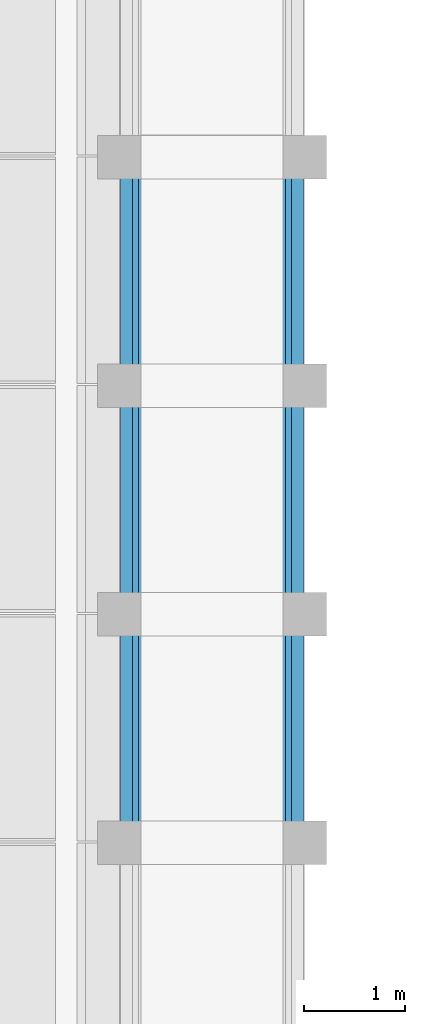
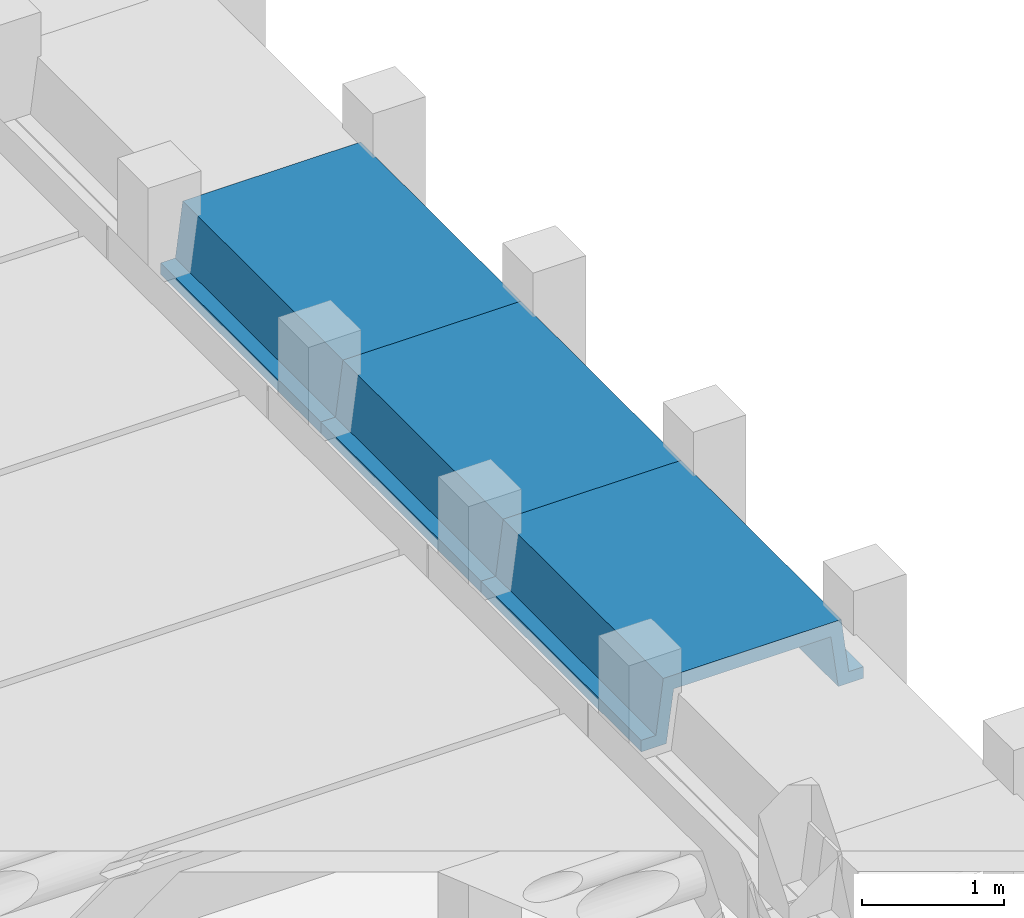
# One storey, part 6 of 21: 3 beams.
"""IFC2X3 building model written with IfcOpenShell, lengths in millimetres."""

from ifc_helpers import new_model, entity, si_unit, converted_unit, derived_unit, direction, frame, origin, place, context, subcontext, project, spatial, polyline, outline, extrude, material, type_object, element, save


model = new_model("IFC2X3")

# Units and contexts
model_context = context("Model", 3, precision=0.01, world=origin(), true_north=direction((6.12303176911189e-17, 1.0)))
body_context = subcontext(model_context, "Body", "Model", "MODEL_VIEW")
ifc_project = project(units=[si_unit("LENGTHUNIT", "METRE", prefix="MILLI"), si_unit("AREAUNIT", "SQUARE_METRE"), si_unit("VOLUMEUNIT", "CUBIC_METRE"), converted_unit("PLANEANGLEUNIT", "DEGREE", entity("IfcRatioMeasure", 0.0174532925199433), si_unit("PLANEANGLEUNIT", "RADIAN"), dimensions=[0, 0, 0, 0, 0, 0, 0]), si_unit("MASSUNIT", "GRAM", prefix="KILO"), derived_unit("MASSDENSITYUNIT", [(si_unit("MASSUNIT", "GRAM", prefix="KILO"), 1), (si_unit("LENGTHUNIT", "METRE"), -3)]), derived_unit("MOMENTOFINERTIAUNIT", [(si_unit("LENGTHUNIT", "METRE"), 4)]), si_unit("TIMEUNIT", "SECOND"), si_unit("FREQUENCYUNIT", "HERTZ"), si_unit("THERMODYNAMICTEMPERATUREUNIT", "DEGREE_CELSIUS"), derived_unit("THERMALTRANSMITTANCEUNIT", [(si_unit("MASSUNIT", "GRAM", prefix="KILO"), 1), (si_unit("THERMODYNAMICTEMPERATUREUNIT", "KELVIN"), -1), (si_unit("TIMEUNIT", "SECOND"), -3)]), derived_unit("VOLUMETRICFLOWRATEUNIT", [(si_unit("LENGTHUNIT", "METRE"), 3), (si_unit("TIMEUNIT", "SECOND"), -1)]), si_unit("ELECTRICCURRENTUNIT", "AMPERE"), si_unit("ELECTRICVOLTAGEUNIT", "VOLT"), si_unit("POWERUNIT", "WATT"), si_unit("FORCEUNIT", "NEWTON", prefix="KILO"), si_unit("ILLUMINANCEUNIT", "LUX"), si_unit("LUMINOUSFLUXUNIT", "LUMEN"), si_unit("LUMINOUSINTENSITYUNIT", "CANDELA"), derived_unit("USERDEFINED", [(si_unit("MASSUNIT", "GRAM", prefix="KILO"), -1), (si_unit("LENGTHUNIT", "METRE"), -2), (si_unit("TIMEUNIT", "SECOND"), 3), (si_unit("LUMINOUSFLUXUNIT", "LUMEN"), 1)]), derived_unit("LINEARVELOCITYUNIT", [(si_unit("LENGTHUNIT", "METRE"), 1), (si_unit("TIMEUNIT", "SECOND"), -1)]), si_unit("PRESSUREUNIT", "PASCAL"), derived_unit("USERDEFINED", [(si_unit("LENGTHUNIT", "METRE"), -2), (si_unit("MASSUNIT", "GRAM", prefix="KILO"), 1), (si_unit("TIMEUNIT", "SECOND"), -2)]), derived_unit("LINEARFORCEUNIT", [(si_unit("MASSUNIT", "GRAM", prefix="KILO"), 1), (si_unit("LENGTHUNIT", "METRE"), 1), (si_unit("TIMEUNIT", "SECOND"), -2), (si_unit("LENGTHUNIT", "METRE"), -1)]), derived_unit("PLANARFORCEUNIT", [(si_unit("MASSUNIT", "GRAM", prefix="KILO"), 1), (si_unit("LENGTHUNIT", "METRE"), 1), (si_unit("TIMEUNIT", "SECOND"), -2), (si_unit("LENGTHUNIT", "METRE"), -2)])], contexts=[model_context])

# Site, building, storey
site_placement = place(None, frame((10627.5135316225, 21939.0796949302, 0.0)))
site = spatial("IfcSite", under=ifc_project, at=site_placement, Name="Default", CompositionType="ELEMENT")
building_placement = place(site_placement, origin())
building = spatial("IfcBuilding", under=site, at=building_placement, CompositionType="ELEMENT")
storey_placement = place(building_placement, frame((0.0, 0.0, 7320.0)))
storey = spatial("IfcBuildingStorey", under=building, at=storey_placement, Name="R+2", CompositionType="ELEMENT", Elevation=7320.0)

# Beams
ifc_material = material(Name="Concrete, Precast Smooth, Light Grey")
beam_type = type_object("IfcBeamType", Name="Poutre petite:Poutre petite", PredefinedType="NOTDEFINED")
for number, where, z_axis, x_axis, name in (
    (1, (667.48646837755, 7440.92030506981, 3530.00034615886), (0.0, 0.0, 1.0), (0.0, 1.0, 0.0), "Poutre petite:Poutre petite"),
    (2, (667.48646837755, 5180.92030506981, 3530.00034615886), (0.0, 0.0, 1.0), (0.0, 1.0, 0.0), "Poutre petite:Poutre petite"),
    (3, (667.48646837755, 2920.92030506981, 3530.00034615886), (0.0, 0.0, 1.0), (0.0, 1.0, 0.0), "Poutre petite:Poutre petite"),
):
    element("IfcBeam", number, at=place(storey_placement, frame(where, z_axis=z_axis, x_axis=x_axis)), inside=storey, type_object=beam_type, material=ifc_material, Name=name, ObjectType="Poutre petite:Poutre petite", context=body_context, shape_type="SweptSolid", body=[
        extrude(outline(polyline([(103.333217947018, -905.013684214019), (203.333564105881, -905.013684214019), (203.333564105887, -700.013730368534), (-246.666782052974, -640.013684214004), (-246.666782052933, 640.013497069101), (203.333564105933, 700.013543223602), (203.333564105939, 905.014058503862), (103.333217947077, 905.014058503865), (103.333217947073, 785.01349706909), (-366.666782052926, 725.013497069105), (-366.666782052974, -725.013684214), (103.333217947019, -785.013684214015), (103.333217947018, -905.013684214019)])), frame((0.0, -0.000187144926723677, -366.66678205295), z_axis=(1.0, 0.0, 0.0), x_axis=(0.0, 0.0, -1.0)), (0.0, 0.0, 1.0), 2260.0),
    ])

save(model, "model.ifc")
